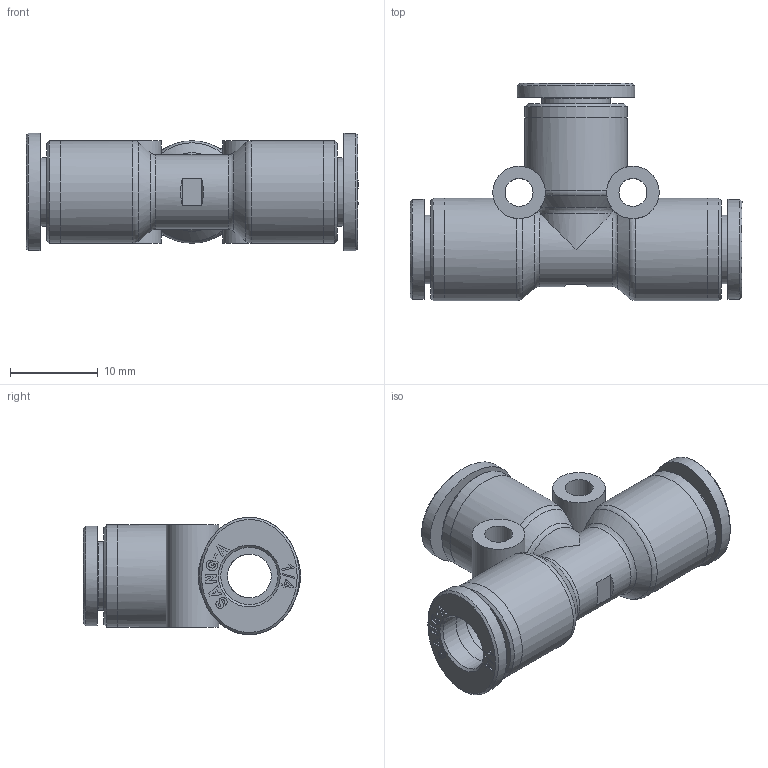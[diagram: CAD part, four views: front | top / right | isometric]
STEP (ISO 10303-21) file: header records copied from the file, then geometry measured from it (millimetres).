
FILE_DESCRIPTION((''),'2;1');
FILE_NAME('C:\Users\user0117\Desktop\김진일\홈페이지\1_4\Internet\GPUT 1_4.stp','2019-09-02T10:08:40',('user0117'),(''),'Autodesk Inventor 2013','Autodesk Inventor 2013','');
FILE_SCHEMA(('AUTOMOTIVE_DESIGN { 1 0 10303 214 1 1 1 1 }'));
Length unit declared in the file: millimetre
Products named in the file (5): GPUT 1_4; GPUT BODY 1-4(PLASTIC); G-COLLAR G1-4L; COLLAR G1-4L; SLEEVE G1-4
Assembly tree (6 placements, depth 3):
  GPUT 1_4
    GPUT BODY 1-4(PLASTIC)
    G-COLLAR G1-4L  x3
      COLLAR G1-4L
      SLEEVE G1-4
Bounding box: 37.9 x 24.8 x 13.38 mm (x, y, z)
Volume: 3548.2 mm3; surface area: 4481.6 mm2
Topology: 7 solids, 7 shells, 431 faces, 1122 edges, 748 vertices
Faces by surface type: plane 299, bspline 66, cylinder 45, cone 13, torus 8
Full cylindrical faces by diameter (mm): 3.2 x2, 5 x2, 6 x2, 6.55 x9, 7.85 x3, 11.7 x6
Entity records: 5854 total; most frequent: CARTESIAN_POINT 1619, ORIENTED_EDGE 840, DIRECTION 809, EDGE_CURVE 420, VERTEX_POINT 292, AXIS2_PLACEMENT_3D 270, VECTOR 269, LINE 269
